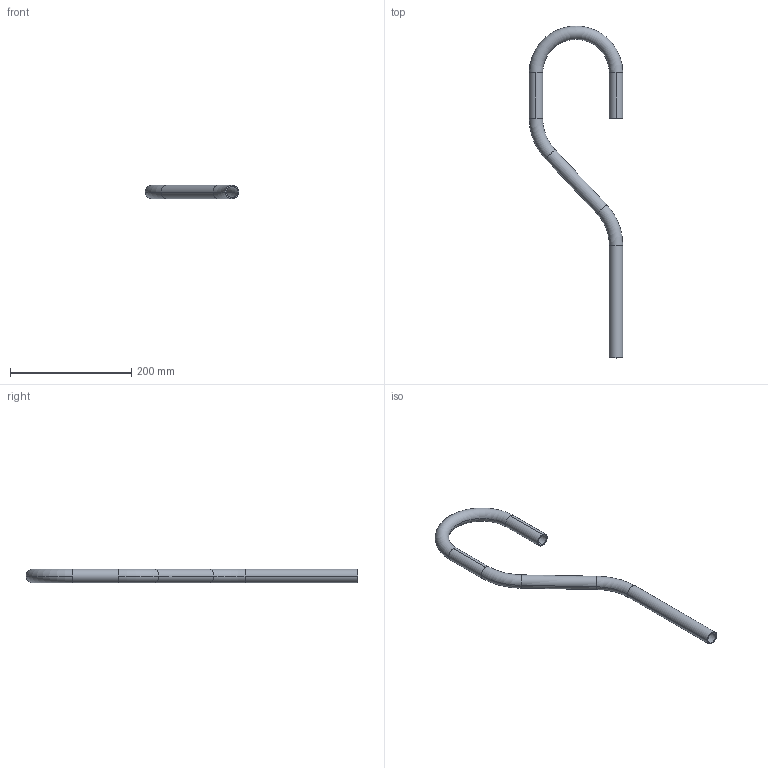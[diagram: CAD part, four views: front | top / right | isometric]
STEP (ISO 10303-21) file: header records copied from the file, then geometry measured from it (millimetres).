
FILE_DESCRIPTION (( 'STEP AP203' ), '1' );
FILE_NAME ('059.022.100.STEP', '2015-06-04T10:27:39', ( '' ), ( '' ), 'SwSTEP 2.0', 'SolidWorks 2012', '' );
FILE_SCHEMA (( 'CONFIG_CONTROL_DESIGN' ));
Length unit declared in the file: millimetre
Products named in the file (1): 059.022.100
Bounding box: 154 x 547 x 22 mm (x, y, z)
Volume: 77096.9 mm3; surface area: 102989.1 mm2
Topology: 1 solids, 1 shells, 30 faces, 72 edges, 44 vertices
Faces by surface type: cylinder 16, torus 12, plane 2
Entity records: 977 total; most frequent: DIRECTION 190, CARTESIAN_POINT 147, ORIENTED_EDGE 144, AXIS2_PLACEMENT_3D 87, EDGE_CURVE 72, CIRCLE 56, VERTEX_POINT 44, EDGE_LOOP 32
